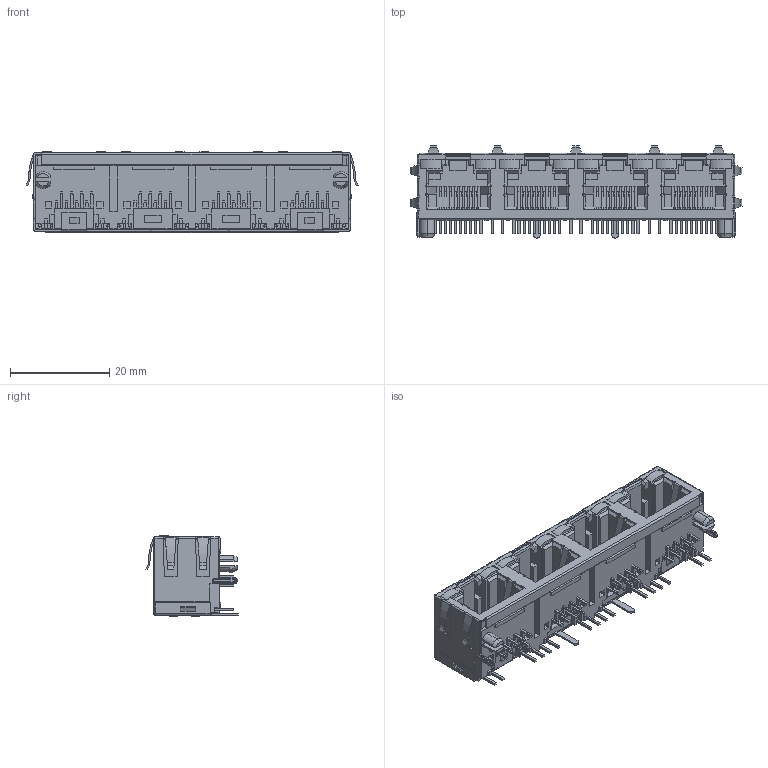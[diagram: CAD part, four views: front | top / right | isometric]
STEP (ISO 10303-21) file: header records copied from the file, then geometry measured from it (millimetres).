
FILE_DESCRIPTION((''),'2;1');
FILE_NAME('AJ-111SH-4-F-XX-B4-N4-XX','2020-07-16T17:27:37',('Administrator'),(''),'CREO PARAMETRIC BY PTC INC, 2018400','CREO PARAMETRIC BY PTC INC, 2018400','');
FILE_SCHEMA(('CONFIG_CONTROL_DESIGN'));
Products named in the file (1): AJ-111SH-4-F-XX-B4-N4-XX
Bounding box: 66.8 x 18.56 x 16.32 mm (x, y, z)
Volume: 6732.9 mm3; surface area: 15566.2 mm2
Topology: 1 solids, 1 shells, 3050 faces, 8932 edges, 5772 vertices
Faces by surface type: plane 2596, cylinder 430, torus 12, cone 6, bspline 4, sphere 2
Entity records: 99801 total; most frequent: CARTESIAN_POINT 18459, ORIENTED_EDGE 17860, DIRECTION 15632, EDGE_CURVE 8930, VECTOR 7920, LINE 7920, VERTEX_POINT 5772, AXIS2_PLACEMENT_3D 3856
